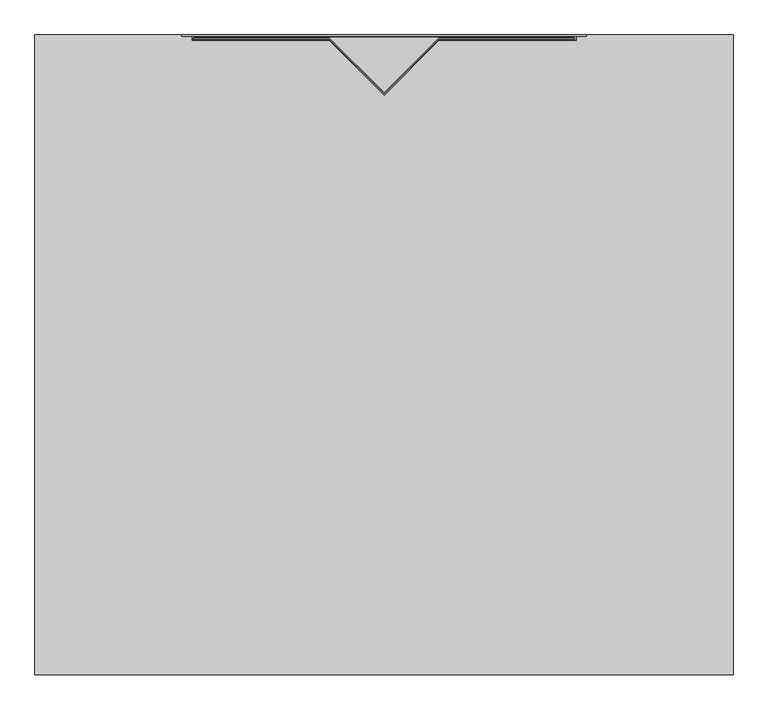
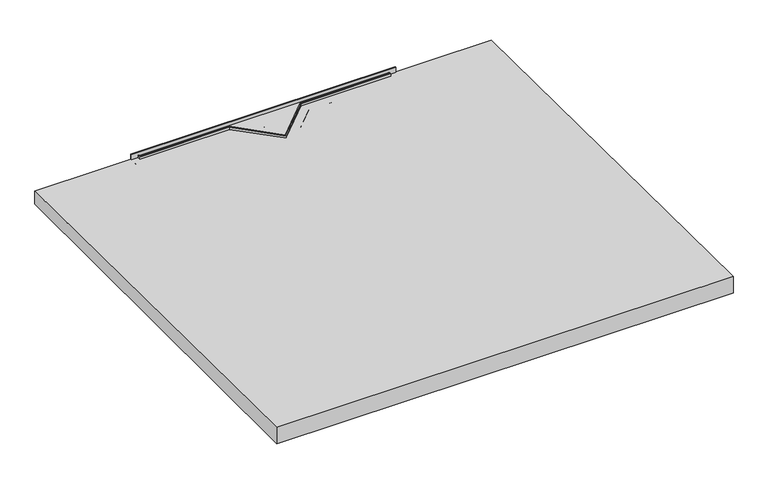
"""IFC4 building model written with IfcOpenShell, lengths in millimetres: sanitary terminal geometry, NLRS_PF_52_UN_Showerboard S-Line_Easydrain : S-Line met M2 ondiep sifonhuis."""

from ifc_helpers import new_model, si_unit, point, frame, frame_2d, origin, place, context, project, spatial, polyline, circle_curve, trimmed, segment, composite_curve, outline, extrude, faceted_brep, source, transform, mapped, element, save


def sanitary_terminal_e4e503c8(model_context):
    return source(origin(), model_context, "Body", "SolidModel", [
        extrude(outline(polyline([(33.0, -7.0), (33.0, -43.0), (-1067.0, -43.0), (-1067.0, 3.0), (33.0, -7.0)])), frame((-600.0, 0.0, 0.0), z_axis=(1.0, 0.0, 0.0), x_axis=(0.0, 1.0, 0.0)), (0.0, 0.0, 1.0), 1200.0),
        extrude(outline(polyline([(347.5, 33.0), (347.5, 0.0), (101.0, 0.0), (0.0, -101.0), (-101.0, 0.0), (-347.5, 0.0), (-347.5, 33.0), (347.5, 33.0)])), frame((0.0, 0.0, -10.0), z_axis=(0.0, 0.0, 1.0), x_axis=(1.0, 0.0, 0.0)), (0.0, 0.0, 1.0), 3.0),
        extrude(outline(composite_curve([segment(trimmed(circle_curve(frame_2d((0.0, -21.0)), 25.0), [point((-25.0, -21.0))], [point((25.0, -21.0))], False, "CARTESIAN"), True, "CONTINUOUS"), segment(trimmed(circle_curve(frame_2d((0.0, -21.0)), 25.0), [point((25.0, -21.0))], [point((-25.0, -21.0))], False, "CARTESIAN"), True, "CONTINUOUS")], self_intersect=False)), frame((0.0, 0.0, -31.5), z_axis=(0.0, 0.0, 1.0), x_axis=(1.0, 0.0, 0.0)), (0.0, 0.0, 1.0), 24.5),
        faceted_brep([(347.5, 33.0, 8.0), (-347.5, 33.0, 8.0), (-347.5, 31.0, 8.0), (347.5, 31.0, 8.0), (347.5, 33.0, -7.0), (-347.5, 33.0, -7.0), (-347.5, 31.0, -7.0), (-330.0, 31.0, -7.0), (-330.0, 31.0, 0.0), (-327.5, 31.0, 0.0), (-327.5, 31.0, -7.0), (327.5, 31.0, -7.0), (327.5, 31.0, 0.0), (330.0, 31.0, 0.0), (330.0, 31.0, -7.0), (347.5, 31.0, -7.0), (-94.4, 23.4, 0.0), (0.0, -71.0, 0.0), (94.4, 23.4, 0.0), (330.0, 23.4, 0.0), (327.5, 29.0, 0.0), (-327.5, 29.0, 0.0), (-330.0, 23.4, 0.0), (-93.8972829, 25.4, 0.0), (-327.5, 25.4, 0.0), (-327.5, 27.4, 0.0), (-93.9087807, 27.4, 0.0), (0.0, -66.5087807, 0.0), (93.9087807, 27.4, 0.0), (327.5, 27.4, 0.0), (327.5, 25.4, 0.0), (93.8972829, 25.4, 0.0), (0.0, -68.4972829, 0.0), (-330.0, 23.4, -7.0), (-94.4, 23.4, -7.0), (94.4, 23.4, -7.0), (330.0, 23.4, -7.0), (0.0, -71.0, -7.0), (-93.8972829, 25.4, -7.0), (-327.5, 25.4, -7.0), (-327.5, 27.4, -7.0), (-93.9087807, 27.4, -7.0), (0.0, -66.5087807, -7.0), (93.9087807, 27.4, -7.0), (327.5, 27.4, -7.0), (327.5, 25.4, -7.0), (93.8972829, 25.4, -7.0), (0.0, -68.4972829, -7.0), (-327.5, 29.0, -7.0), (327.5, 29.0, -7.0)], [[[0, 1, 2, 3]], [[1, 0, 4, 5]], [[2, 1, 5, 6]], [[3, 2, 6, 7, 8, 9, 10, 11, 12, 13, 14, 15]], [[0, 3, 15, 4]], [[16, 17, 18, 19, 13, 12, 20, 21, 9, 8, 22], [23, 24, 25, 26, 27, 28, 29, 30, 31, 32]], [[16, 22, 33, 34]], [[19, 18, 35, 36]], [[18, 17, 37, 35]], [[17, 16, 34, 37]], [[24, 23, 38, 39]], [[25, 24, 39, 40]], [[26, 25, 40, 41]], [[27, 26, 41, 42]], [[28, 27, 42, 43]], [[29, 28, 43, 44]], [[30, 29, 44, 45]], [[31, 30, 45, 46]], [[32, 31, 46, 47]], [[23, 32, 47, 38]], [[4, 15, 14, 36, 35, 37, 34, 33, 7, 6, 5], [38, 47, 46, 45, 44, 43, 42, 41, 40, 39], [11, 10, 48, 49]], [[22, 8, 7, 33]], [[21, 20, 49, 48]], [[13, 19, 36, 14]], [[20, 12, 11, 49]], [[9, 21, 48, 10]]]),
    ])


if __name__ == "__main__":
    model = new_model("IFC4")
    model_context = context("Model", 3, world=origin())
    ifc_project = project(units=[si_unit("LENGTHUNIT", "METRE", prefix="MILLI")], contexts=[model_context])
    site = spatial("IfcSite", under=ifc_project)
    building = spatial("IfcBuilding", under=site)
    placement = place(None, origin())
    sanitary_terminal_shape = sanitary_terminal_e4e503c8(model_context)
    element("IfcSanitaryTerminal", 1, ObjectType="NLRS_PF_52_UN_Showerboard S-Line_Easydrain : S-Line met M2 ondiep sifonhuis", at=placement, inside=building, context=model_context, shape_type="MappedRepresentation", body=[
        mapped(sanitary_terminal_shape, transform((0.0, 0.0, 0.0), x_axis=(1.0, 0.0, 0.0), y_axis=(0.0, 1.0, 0.0), z_axis=(0.0, 0.0, 1.0))),
    ])
    save(model, "model.ifc")
